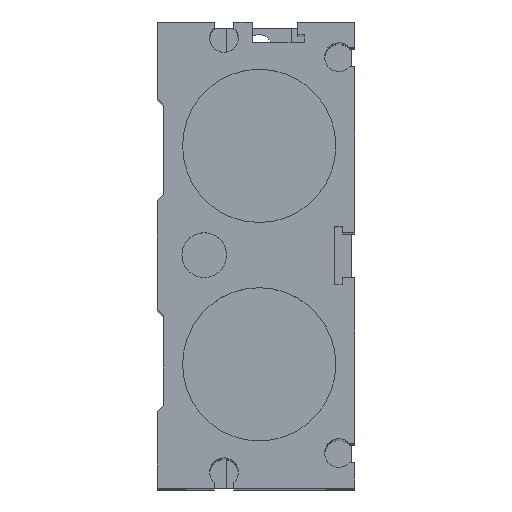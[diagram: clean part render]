
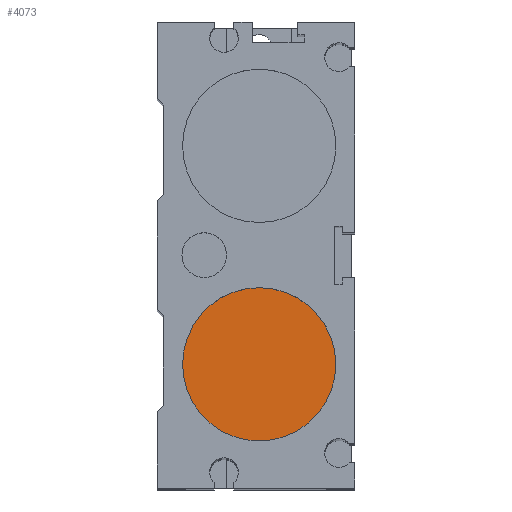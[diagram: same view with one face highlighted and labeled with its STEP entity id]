
A CAD part, top view. The second image highlights one B-rep face of the part: STEP entity #4073.
In plain terms, the highlighted planar face has unit normal (0, 0, 1).
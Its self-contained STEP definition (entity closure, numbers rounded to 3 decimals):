
#4050=CARTESIAN_POINT('',(12.,-17.1,281.));
#4051=VERTEX_POINT('',#4050);
#4052=CARTESIAN_POINT('',(0.,-17.1,281.));
#4053=DIRECTION('',(0.0,0.0,1.0));
#4054=DIRECTION('',(-1.0,0.0,0.0));
#4055=AXIS2_PLACEMENT_3D('',#4052,#4053,#4054);
#4056=CIRCLE('',#4055,12.);
#4057=EDGE_CURVE('',#4051,#4051,#4056,.T.);
#4065=CARTESIAN_POINT('',(0.,-17.1,281.));
#4066=DIRECTION('',(0.0,0.0,-1.0));
#4067=DIRECTION('',(-1.0,0.0,0.0));
#4068=AXIS2_PLACEMENT_3D('',#4065,#4066,#4067);
#4069=PLANE('',#4068);
#4070=ORIENTED_EDGE('',*,*,#4057,.T.);
#4071=EDGE_LOOP('',(#4070));
#4072=FACE_OUTER_BOUND('',#4071,.T.);
#4073=ADVANCED_FACE('',(#4072),#4069,.F.);
